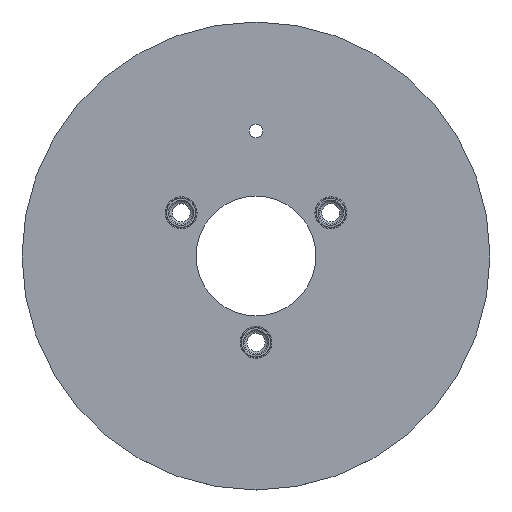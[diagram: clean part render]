
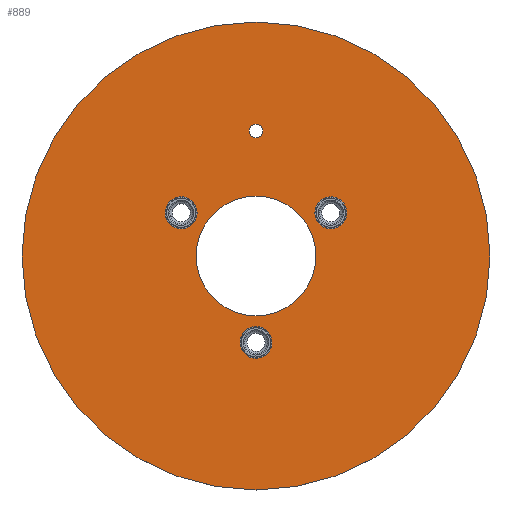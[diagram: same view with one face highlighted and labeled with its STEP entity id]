
A CAD part, top view. The second image highlights one B-rep face of the part: STEP entity #889.
In plain terms, the highlighted planar face has unit normal (0, 0, 1) as drawn and (0, -1, 0) by its records, which use the part's own axes.
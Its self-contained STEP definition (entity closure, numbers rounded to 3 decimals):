
#1 = CARTESIAN_POINT ( 'NONE',  ( 0., -2.5, -88. ) ) ;
#9 = AXIS2_PLACEMENT_3D ( 'NONE', #1139, #102, #1486 ) ;
#23 = CARTESIAN_POINT ( 'NONE',  ( 28.146, -2.5, -16.25 ) ) ;
#39 = AXIS2_PLACEMENT_3D ( 'NONE', #2163, #1300, #1994 ) ;
#49 = CIRCLE ( 'NONE', #1627, 2.5 ) ;
#76 = ORIENTED_EDGE ( 'NONE', *, *, #741, .T. ) ;
#102 = DIRECTION ( 'NONE',  ( 0., 1., 0. ) ) ;
#114 = AXIS2_PLACEMENT_3D ( 'NONE', #2139, #1100, #930 ) ;
#136 = DIRECTION ( 'NONE',  ( 0., 1., 0. ) ) ;
#169 = DIRECTION ( 'NONE',  ( 0., 1., 0. ) ) ;
#170 = EDGE_CURVE ( 'NONE', #1935, #758, #2060, .T. ) ;
#171 = DIRECTION ( 'NONE',  ( 0., 0., 1. ) ) ;
#198 = DIRECTION ( 'NONE',  ( 0., 1., 0. ) ) ;
#213 = CARTESIAN_POINT ( 'NONE',  ( 0., -2.5, 88. ) ) ;
#214 = EDGE_CURVE ( 'NONE', #1747, #1789, #49, .T. ) ;
#330 = DIRECTION ( 'NONE',  ( 0., 1., 0. ) ) ;
#331 = ORIENTED_EDGE ( 'NONE', *, *, #1755, .T. ) ;
#334 = ORIENTED_EDGE ( 'NONE', *, *, #1863, .T. ) ;
#335 = EDGE_CURVE ( 'NONE', #637, #1246, #2061, .T. ) ;
#360 = ORIENTED_EDGE ( 'NONE', *, *, #1108, .F. ) ;
#401 = FACE_BOUND ( 'NONE', #2085, .T. ) ;
#405 = DIRECTION ( 'NONE',  ( 0., 0., 1. ) ) ;
#505 = ORIENTED_EDGE ( 'NONE', *, *, #717, .T. ) ;
#510 = CARTESIAN_POINT ( 'NONE',  ( 28.146, -2.5, -16.25 ) ) ;
#513 = DIRECTION ( 'NONE',  ( 0., 1., 0. ) ) ;
#536 = CARTESIAN_POINT ( 'NONE',  ( 28.146, -2.5, -10.75 ) ) ;
#553 = AXIS2_PLACEMENT_3D ( 'NONE', #510, #1754, #171 ) ;
#555 = FACE_BOUND ( 'NONE', #1299, .T. ) ;
#570 = CARTESIAN_POINT ( 'NONE',  ( 0., -2.5, 0. ) ) ;
#582 = ORIENTED_EDGE ( 'NONE', *, *, #335, .T. ) ;
#594 = VERTEX_POINT ( 'NONE', #1788 ) ;
#595 = CIRCLE ( 'NONE', #1847, 5.5 ) ;
#637 = VERTEX_POINT ( 'NONE', #1711 ) ;
#658 = CIRCLE ( 'NONE', #1319, 22.5 ) ;
#699 = EDGE_CURVE ( 'NONE', #1732, #1723, #1659, .T. ) ;
#704 = CARTESIAN_POINT ( 'NONE',  ( 0., -2.5, -44.5 ) ) ;
#717 = EDGE_CURVE ( 'NONE', #1723, #1732, #658, .T. ) ;
#741 = EDGE_CURVE ( 'NONE', #594, #753, #840, .T. ) ;
#749 = VERTEX_POINT ( 'NONE', #1 ) ;
#753 = VERTEX_POINT ( 'NONE', #536 ) ;
#758 = VERTEX_POINT ( 'NONE', #1233 ) ;
#781 = CIRCLE ( 'NONE', #2096, 5.5 ) ;
#840 = CIRCLE ( 'NONE', #553, 5.5 ) ;
#851 = DIRECTION ( 'NONE',  ( 0., 0., 1. ) ) ;
#863 = EDGE_CURVE ( 'NONE', #1246, #637, #1579, .T. ) ;
#889 = ADVANCED_FACE ( 'NONE', ( #1776, #401, #2150, #555, #1649, #916 ), #1822, .F. ) ;
#908 = ORIENTED_EDGE ( 'NONE', *, *, #699, .T. ) ;
#916 = FACE_OUTER_BOUND ( 'NONE', #1521, .T. ) ;
#930 = DIRECTION ( 'NONE',  ( 0., 0., 1. ) ) ;
#944 = EDGE_CURVE ( 'NONE', #1977, #749, #1113, .T. ) ;
#953 = AXIS2_PLACEMENT_3D ( 'NONE', #1203, #330, #1384 ) ;
#1024 = CARTESIAN_POINT ( 'NONE',  ( 0., -2.5, 0. ) ) ;
#1049 = EDGE_LOOP ( 'NONE', ( #1745, #1555 ) ) ;
#1062 = CARTESIAN_POINT ( 'NONE',  ( 0., -2.5, -22.5 ) ) ;
#1100 = DIRECTION ( 'NONE',  ( 0., 1., 0. ) ) ;
#1108 = EDGE_CURVE ( 'NONE', #749, #1977, #1769, .T. ) ;
#1113 = CIRCLE ( 'NONE', #114, 88. ) ;
#1139 = CARTESIAN_POINT ( 'NONE',  ( 0., -2.5, -47. ) ) ;
#1182 = CIRCLE ( 'NONE', #9, 2.5 ) ;
#1186 = CARTESIAN_POINT ( 'NONE',  ( 0., -2.5, 32.5 ) ) ;
#1203 = CARTESIAN_POINT ( 'NONE',  ( 0., -2.5, 0. ) ) ;
#1209 = DIRECTION ( 'NONE',  ( 0., 0., 1. ) ) ;
#1233 = CARTESIAN_POINT ( 'NONE',  ( 0., -2.5, 38. ) ) ;
#1246 = VERTEX_POINT ( 'NONE', #1756 ) ;
#1299 = EDGE_LOOP ( 'NONE', ( #331, #2239 ) ) ;
#1300 = DIRECTION ( 'NONE',  ( 0., 1., 0. ) ) ;
#1319 = AXIS2_PLACEMENT_3D ( 'NONE', #1742, #1721, #1209 ) ;
#1372 = CARTESIAN_POINT ( 'NONE',  ( 0., -2.5, 22.5 ) ) ;
#1384 = DIRECTION ( 'NONE',  ( 0., 0., 1. ) ) ;
#1407 = DIRECTION ( 'NONE',  ( 0., 1., 0. ) ) ;
#1425 = CARTESIAN_POINT ( 'NONE',  ( 0., -2.5, 27. ) ) ;
#1440 = CARTESIAN_POINT ( 'NONE',  ( 0., -2.5, 32.5 ) ) ;
#1486 = DIRECTION ( 'NONE',  ( 0., 0., 1. ) ) ;
#1521 = EDGE_LOOP ( 'NONE', ( #1968, #360 ) ) ;
#1531 = DIRECTION ( 'NONE',  ( 0., 0., 1. ) ) ;
#1534 = AXIS2_PLACEMENT_3D ( 'NONE', #1024, #136, #851 ) ;
#1555 = ORIENTED_EDGE ( 'NONE', *, *, #214, .T. ) ;
#1579 = CIRCLE ( 'NONE', #39, 5.5 ) ;
#1624 = DIRECTION ( 'NONE',  ( 0., 0., 1. ) ) ;
#1627 = AXIS2_PLACEMENT_3D ( 'NONE', #2240, #1898, #2217 ) ;
#1649 = FACE_BOUND ( 'NONE', #2065, .T. ) ;
#1659 = CIRCLE ( 'NONE', #1534, 22.5 ) ;
#1661 = AXIS2_PLACEMENT_3D ( 'NONE', #570, #198, #1624 ) ;
#1672 = AXIS2_PLACEMENT_3D ( 'NONE', #2253, #513, #1746 ) ;
#1711 = CARTESIAN_POINT ( 'NONE',  ( -28.146, -2.5, -10.75 ) ) ;
#1721 = DIRECTION ( 'NONE',  ( 0., 1., 0. ) ) ;
#1723 = VERTEX_POINT ( 'NONE', #1062 ) ;
#1732 = VERTEX_POINT ( 'NONE', #1372 ) ;
#1742 = CARTESIAN_POINT ( 'NONE',  ( 0., -2.5, 0. ) ) ;
#1745 = ORIENTED_EDGE ( 'NONE', *, *, #2230, .T. ) ;
#1746 = DIRECTION ( 'NONE',  ( 0., 0., 1. ) ) ;
#1747 = VERTEX_POINT ( 'NONE', #2050 ) ;
#1754 = DIRECTION ( 'NONE',  ( 0., 1., 0. ) ) ;
#1755 = EDGE_CURVE ( 'NONE', #758, #1935, #595, .T. ) ;
#1756 = CARTESIAN_POINT ( 'NONE',  ( -28.146, -2.5, -21.75 ) ) ;
#1769 = CIRCLE ( 'NONE', #953, 88. ) ;
#1776 = FACE_BOUND ( 'NONE', #1049, .T. ) ;
#1788 = CARTESIAN_POINT ( 'NONE',  ( 28.146, -2.5, -21.75 ) ) ;
#1789 = VERTEX_POINT ( 'NONE', #704 ) ;
#1822 = PLANE ( 'NONE',  #1661 ) ;
#1847 = AXIS2_PLACEMENT_3D ( 'NONE', #1186, #169, #1531 ) ;
#1863 = EDGE_CURVE ( 'NONE', #753, #594, #781, .T. ) ;
#1898 = DIRECTION ( 'NONE',  ( 0., 1., 0. ) ) ;
#1935 = VERTEX_POINT ( 'NONE', #1425 ) ;
#1968 = ORIENTED_EDGE ( 'NONE', *, *, #944, .F. ) ;
#1973 = DIRECTION ( 'NONE',  ( 0., 1., 0. ) ) ;
#1977 = VERTEX_POINT ( 'NONE', #213 ) ;
#1994 = DIRECTION ( 'NONE',  ( 0., 0., 1. ) ) ;
#2050 = CARTESIAN_POINT ( 'NONE',  ( 0., -2.5, -49.5 ) ) ;
#2060 = CIRCLE ( 'NONE', #2137, 5.5 ) ;
#2061 = CIRCLE ( 'NONE', #1672, 5.5 ) ;
#2065 = EDGE_LOOP ( 'NONE', ( #908, #505 ) ) ;
#2085 = EDGE_LOOP ( 'NONE', ( #334, #76 ) ) ;
#2096 = AXIS2_PLACEMENT_3D ( 'NONE', #23, #1407, #2119 ) ;
#2119 = DIRECTION ( 'NONE',  ( 0., 0., 1. ) ) ;
#2137 = AXIS2_PLACEMENT_3D ( 'NONE', #1440, #1973, #405 ) ;
#2139 = CARTESIAN_POINT ( 'NONE',  ( 0., -2.5, 0. ) ) ;
#2150 = FACE_BOUND ( 'NONE', #2210, .T. ) ;
#2163 = CARTESIAN_POINT ( 'NONE',  ( -28.146, -2.5, -16.25 ) ) ;
#2210 = EDGE_LOOP ( 'NONE', ( #582, #2262 ) ) ;
#2217 = DIRECTION ( 'NONE',  ( 0., 0., 1. ) ) ;
#2230 = EDGE_CURVE ( 'NONE', #1789, #1747, #1182, .T. ) ;
#2239 = ORIENTED_EDGE ( 'NONE', *, *, #170, .T. ) ;
#2240 = CARTESIAN_POINT ( 'NONE',  ( 0., -2.5, -47. ) ) ;
#2253 = CARTESIAN_POINT ( 'NONE',  ( -28.146, -2.5, -16.25 ) ) ;
#2262 = ORIENTED_EDGE ( 'NONE', *, *, #863, .T. ) ;
